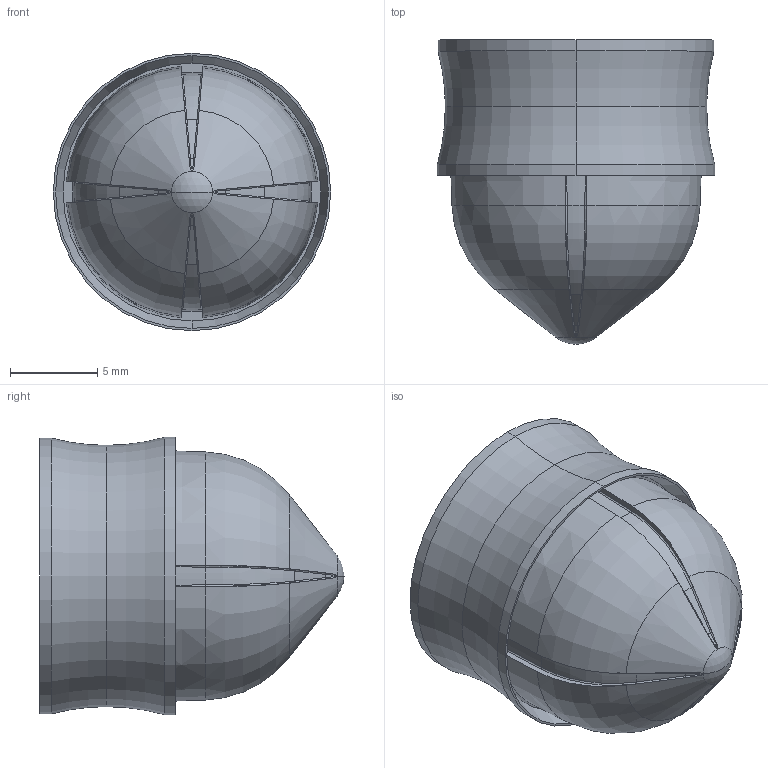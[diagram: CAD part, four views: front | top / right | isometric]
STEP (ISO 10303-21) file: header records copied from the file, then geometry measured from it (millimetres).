
FILE_DESCRIPTION (( 'STEP AP214' ), '1' );
FILE_NAME ('NORDSONEFD-7012025 PISTON O 10CC RD WIPER.STEP', '2019-10-31T07:56:27', ( '' ), ( '' ), 'SwSTEP 2.0', 'SolidWorks 2019', '' );
FILE_SCHEMA (( 'AUTOMOTIVE_DESIGN' ));
Length unit declared in the file: inch
Products named in the file (1): NORDSONEFD-7012025 PISTON O 10CC RD WIPER
Bounding box: 15.86 x 17.4 x 15.86 mm (x, y, z)
Volume: 656.2 mm3; surface area: 1813.6 mm2
Topology: 1 solids, 1 shells, 250 faces, 647 edges, 412 vertices
Faces by surface type: bspline 81, plane 69, cone 35, torus 33, cylinder 28, sphere 4
Entity records: 10895 total; most frequent: CARTESIAN_POINT 5380, ORIENTED_EDGE 1294, DIRECTION 936, EDGE_CURVE 647, VERTEX_POINT 412, AXIS2_PLACEMENT_3D 382, B_SPLINE_CURVE_WITH_KNOTS 263, EDGE_LOOP 263
